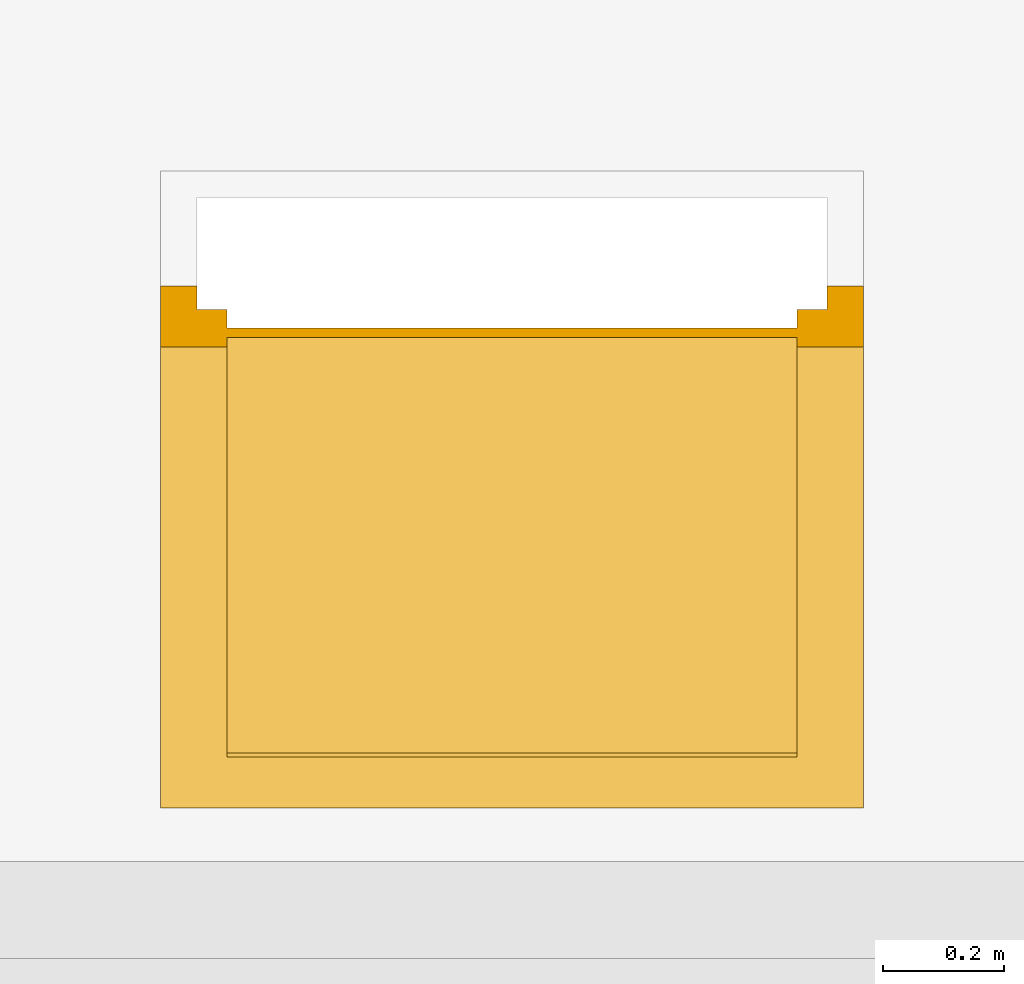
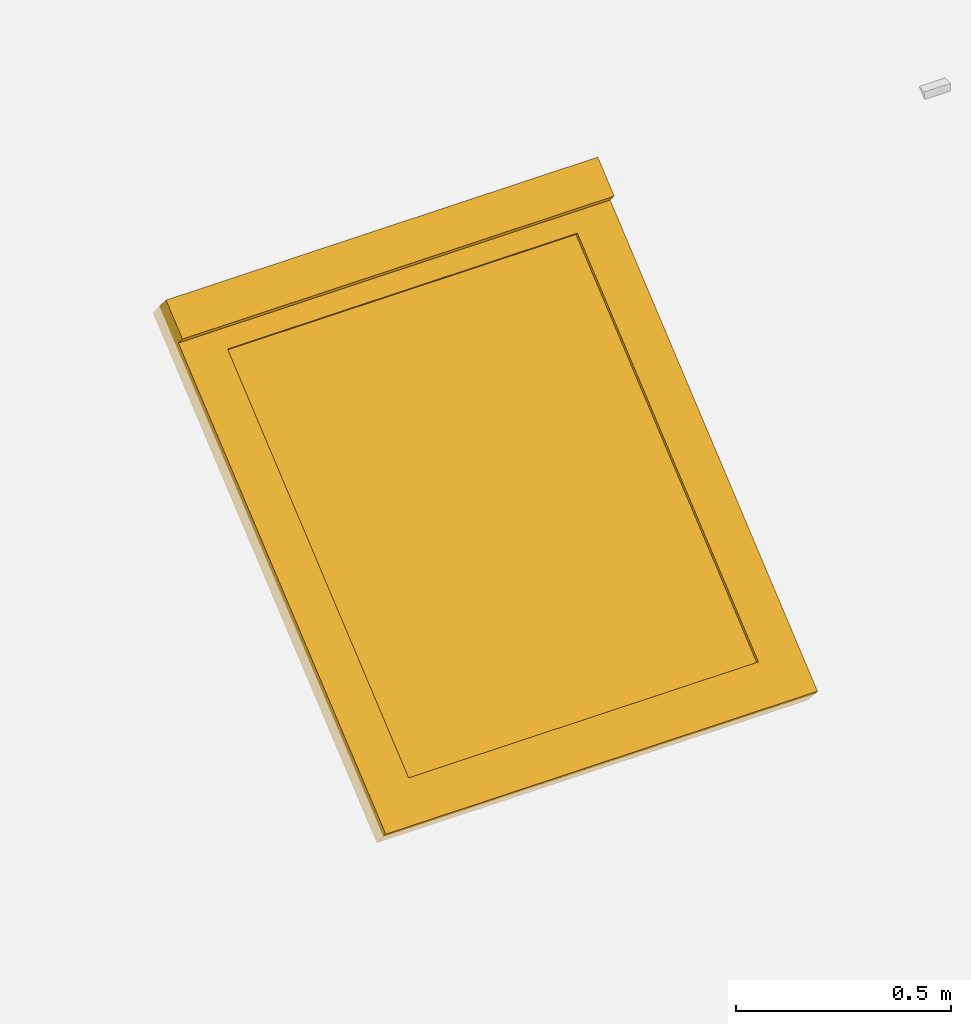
# One storey, part 4 of 5: 1 window.
"""IFC2X3 building model written with IfcOpenShell, lengths in centimetres."""

from ifc_helpers import new_model, entity, si_unit, converted_unit, derived_unit, direction, frame, origin, place, context, subcontext, project, spatial, faceted_brep, source, transform, mapped, material, material_list, type_object, type_shapes, element, save


model = new_model("IFC2X3")

# Units and contexts
model_context = context("Model", 3, precision=0.001, world=origin(), true_north=direction((6.12303176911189e-17, 1.0)))
body_context = subcontext(model_context, "Body", "Model", "MODEL_VIEW")
ifc_project = project(units=[si_unit("LENGTHUNIT", "METRE", prefix="CENTI"), si_unit("AREAUNIT", "SQUARE_METRE"), si_unit("VOLUMEUNIT", "CUBIC_METRE"), converted_unit("PLANEANGLEUNIT", "DEGREE", entity("IfcRatioMeasure", 0.0174532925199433), si_unit("PLANEANGLEUNIT", "RADIAN"), dimensions=[0, 0, 0, 0, 0, 0, 0]), si_unit("MASSUNIT", "GRAM", prefix="KILO"), derived_unit("MASSDENSITYUNIT", [(si_unit("MASSUNIT", "GRAM", prefix="KILO"), 1), (si_unit("LENGTHUNIT", "METRE"), -3)]), derived_unit("MOMENTOFINERTIAUNIT", [(si_unit("LENGTHUNIT", "METRE"), 4)]), si_unit("TIMEUNIT", "SECOND"), si_unit("FREQUENCYUNIT", "HERTZ"), si_unit("THERMODYNAMICTEMPERATUREUNIT", "DEGREE_CELSIUS"), derived_unit("THERMALTRANSMITTANCEUNIT", [(si_unit("MASSUNIT", "GRAM", prefix="KILO"), 1), (si_unit("THERMODYNAMICTEMPERATUREUNIT", "KELVIN"), -1), (si_unit("TIMEUNIT", "SECOND"), -3)]), derived_unit("VOLUMETRICFLOWRATEUNIT", [(si_unit("LENGTHUNIT", "METRE"), 3), (si_unit("TIMEUNIT", "SECOND"), -1)]), si_unit("ELECTRICCURRENTUNIT", "AMPERE"), si_unit("ELECTRICVOLTAGEUNIT", "VOLT"), si_unit("POWERUNIT", "WATT"), si_unit("FORCEUNIT", "NEWTON", prefix="KILO"), si_unit("ILLUMINANCEUNIT", "LUX"), si_unit("LUMINOUSFLUXUNIT", "LUMEN"), si_unit("LUMINOUSINTENSITYUNIT", "CANDELA"), derived_unit("USERDEFINED", [(si_unit("MASSUNIT", "GRAM", prefix="KILO"), -1), (si_unit("LENGTHUNIT", "METRE"), -2), (si_unit("TIMEUNIT", "SECOND"), 3), (si_unit("LUMINOUSFLUXUNIT", "LUMEN"), 1)]), derived_unit("LINEARVELOCITYUNIT", [(si_unit("LENGTHUNIT", "METRE"), 1), (si_unit("TIMEUNIT", "SECOND"), -1)]), si_unit("PRESSUREUNIT", "PASCAL"), derived_unit("USERDEFINED", [(si_unit("LENGTHUNIT", "METRE"), -2), (si_unit("MASSUNIT", "GRAM", prefix="KILO"), 1), (si_unit("TIMEUNIT", "SECOND"), -2)]), derived_unit("LINEARFORCEUNIT", [(si_unit("MASSUNIT", "GRAM", prefix="KILO"), 1), (si_unit("LENGTHUNIT", "METRE"), 1), (si_unit("TIMEUNIT", "SECOND"), -2), (si_unit("LENGTHUNIT", "METRE"), -1)]), derived_unit("PLANARFORCEUNIT", [(si_unit("MASSUNIT", "GRAM", prefix="KILO"), 1), (si_unit("LENGTHUNIT", "METRE"), 1), (si_unit("TIMEUNIT", "SECOND"), -2), (si_unit("LENGTHUNIT", "METRE"), -2)])], contexts=[model_context])

# Site, building, storey
site_placement = place(None, origin())
site = spatial("IfcSite", under=ifc_project, at=site_placement, Name="Surface", CompositionType="ELEMENT")
building_placement = place(site_placement, origin())
building = spatial("IfcBuilding", under=site, at=building_placement, CompositionType="ELEMENT")
storey_placement = place(building_placement, frame((0.0, 0.0, 365.0)))
storey = spatial("IfcBuildingStorey", under=building, at=storey_placement, Name="3.65_Sablière", CompositionType="ELEMENT", Elevation=365.0)

# Window
ifc_material_1 = material(Name="<Unnamed>")
ifc_material_2 = material(Name="Ardoise")
ifc_material_3 = material(Name="Fenêtre - Vitrage")
ifc_material_list_1 = material_list([ifc_material_1, ifc_material_2, ifc_material_3])
ifc_material_list_2 = material_list([ifc_material_2, ifc_material_1])
window_style = type_object("IfcWindowStyle", Name="Fenêtre de toit:114/118", ConstructionType="NOTDEFINED", OperationType="NOTDEFINED", ParameterTakesPrecedence=False, Sizeable=False, material=ifc_material_list_2)
shared_shape = source(origin(), body_context, "Body", "Brep", [
    faceted_brep([(-45.5669872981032, -58.25, 407.5), (-45.5170370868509, -58.1294095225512, 407.5), (-45.4999999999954, -58.0, 407.5), (-45.4999999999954, -57.0, 407.5), (-45.5170370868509, -56.8705904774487, 407.5), (-45.5669872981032, -56.75, 407.5), (-45.6464466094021, -56.6464466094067, 407.5), (-45.7499999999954, -56.5669872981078, 407.5), (-45.8705904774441, -56.5170370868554, 407.5), (-46.0, -56.5, 407.5), (-46.1294095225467, -56.5170370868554, 407.5), (-46.2499999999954, -56.5669872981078, 407.5), (-46.3535533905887, -56.6464466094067, 407.5), (-46.4330127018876, -56.75, 407.5), (-46.4829629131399, -56.8705904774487, 407.5), (-46.4999999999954, -57.0, 407.5), (-46.4999999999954, -58.0, 407.5), (-46.4829629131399, -58.1294095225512, 407.5), (-46.4330127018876, -58.25, 407.5), (-46.3535533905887, -58.3535533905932, 407.5), (-46.2499999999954, -58.4330127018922, 407.5), (-46.1294095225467, -58.4829629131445, 407.5), (-46.0, -58.5, 407.5), (-45.8705904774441, -58.4829629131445, 407.5), (-45.7499999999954, -58.4330127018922, 407.5), (-45.6464466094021, -58.3535533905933, 407.5), (-14.9003206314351, -58.25, 407.5), (-14.8503704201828, -58.1294095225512, 407.5), (-14.8333333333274, -58.0, 407.5), (-14.8333333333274, -57.0, 407.5), (-14.8503704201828, -56.8705904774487, 407.5), (-14.9003206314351, -56.75, 407.5), (-14.9797799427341, -56.6464466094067, 407.5), (-15.0833333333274, -56.5669872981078, 407.5), (-15.2039238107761, -56.5170370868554, 407.5), (-15.3333333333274, -56.5, 407.5), (-15.4627428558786, -56.5170370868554, 407.5), (-15.5833333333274, -56.5669872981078, 407.5), (-15.6868867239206, -56.6464466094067, 407.5), (-15.7663460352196, -56.75, 407.5), (-15.8162962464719, -56.8705904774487, 407.5), (-15.8333333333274, -57.0, 407.5), (-15.8333333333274, -58.0, 407.5), (-15.8162962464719, -58.1294095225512, 407.5), (-15.7663460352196, -58.25, 407.5), (-15.6868867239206, -58.3535533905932, 407.5), (-15.5833333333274, -58.4330127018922, 407.5), (-15.4627428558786, -58.4829629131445, 407.5), (-15.3333333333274, -58.5, 407.5), (-15.2039238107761, -58.4829629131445, 407.5), (-15.0833333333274, -58.4330127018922, 407.5), (-14.9797799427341, -58.3535533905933, 407.5), (15.5833333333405, -58.4330127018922, 407.5), (15.6868867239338, -58.3535533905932, 407.5), (15.7663460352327, -58.25, 407.5), (15.8162962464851, -58.1294095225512, 407.5), (15.8333333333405, -58.0, 407.5), (15.8333333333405, -57.0, 407.5), (15.8162962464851, -56.8705904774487, 407.5), (15.7663460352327, -56.75, 407.5), (15.6868867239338, -56.6464466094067, 407.5), (15.5833333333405, -56.5669872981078, 407.5), (15.4627428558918, -56.5170370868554, 407.5), (15.3333333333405, -56.5, 407.5), (15.2039238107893, -56.5170370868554, 407.5), (15.0833333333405, -56.5669872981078, 407.5), (14.9797799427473, -56.6464466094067, 407.5), (14.9003206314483, -56.75, 407.5), (14.850370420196, -56.8705904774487, 407.5), (14.8333333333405, -57.0, 407.5), (14.8333333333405, -58.0, 407.5), (14.850370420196, -58.1294095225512, 407.5), (14.9003206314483, -58.25, 407.5), (14.9797799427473, -58.3535533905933, 407.5), (15.0833333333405, -58.4330127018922, 407.5), (15.2039238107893, -58.4829629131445, 407.5), (15.3333333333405, -58.5, 407.5), (15.4627428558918, -58.4829629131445, 407.5), (46.1294095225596, -58.4829629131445, 407.5), (46.2500000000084, -58.4330127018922, 407.5), (46.3535533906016, -58.3535533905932, 407.5), (46.4330127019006, -58.25, 407.5), (46.4829629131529, -58.1294095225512, 407.5), (46.5000000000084, -58.0, 407.5), (46.5000000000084, -57.0, 407.5), (46.4829629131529, -56.8705904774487, 407.5), (46.4330127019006, -56.75, 407.5), (46.3535533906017, -56.6464466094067, 407.5), (46.2500000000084, -56.5669872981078, 407.5), (46.1294095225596, -56.5170370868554, 407.5), (46.0, -56.5, 407.5), (45.8705904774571, -56.5170370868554, 407.5), (45.7500000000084, -56.5669872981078, 407.5), (45.6464466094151, -56.6464466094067, 407.5), (45.5669872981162, -56.75, 407.5), (45.5170370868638, -56.8705904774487, 407.5), (45.5000000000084, -57.0, 407.5), (45.5000000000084, -58.0, 407.5), (45.5170370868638, -58.1294095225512, 407.5), (45.5669872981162, -58.25, 407.5), (45.6464466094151, -58.3535533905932, 407.5), (45.7500000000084, -58.4330127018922, 407.5), (45.8705904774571, -58.4829629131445, 407.5), (46.0, -58.5, 407.5), (-50.4999999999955, -55.8670370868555, 403.37059047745), (-50.4999999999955, -55.9169872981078, 403.250000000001), (-50.4999999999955, -55.9964466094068, 403.146446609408), (-50.4999999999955, -56.1000000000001, 403.066987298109), (-50.4999999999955, -56.2205904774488, 403.017037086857), (-50.4999999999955, -56.3500000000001, 403.0), (-50.4999999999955, -58.6500000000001, 403.0), (-50.4999999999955, -58.7794095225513, 403.017037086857), (-50.4999999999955, -58.9, 403.066987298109), (-50.4999999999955, -59.0035533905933, 403.146446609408), (-50.4999999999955, -59.0830127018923, 403.250000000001), (-50.4999999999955, -59.1329629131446, 403.37059047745), (-50.4999999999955, -59.1500000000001, 403.500000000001), (-50.4999999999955, -59.1329629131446, 403.629409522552), (-50.4999999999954, -59.0830127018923, 403.750000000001), (-50.4999999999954, -59.0035533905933, 403.853553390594), (-50.4999999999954, -58.9, 403.933012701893), (-50.4999999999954, -58.7794095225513, 403.982962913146), (-50.4999999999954, -58.6500000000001, 404.0), (-50.4999999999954, -56.3500000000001, 404.0), (-50.4999999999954, -56.2205904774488, 403.982962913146), (-50.4999999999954, -56.1000000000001, 403.933012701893), (-50.4999999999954, -55.9964466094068, 403.853553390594), (-50.4999999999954, -55.9169872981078, 403.750000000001), (-50.4999999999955, -55.8670370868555, 403.629409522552), (-50.4999999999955, -55.8500000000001, 403.500000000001), (50.5000000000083, -59.0830127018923, 403.25), (50.5000000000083, -59.0035533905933, 403.146446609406), (50.5000000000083, -58.9, 403.066987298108), (50.5000000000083, -58.7794095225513, 403.017037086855), (50.5000000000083, -58.6500000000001, 403.0), (50.5000000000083, -56.35, 403.0), (50.5000000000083, -56.2205904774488, 403.017037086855), (50.5000000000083, -56.1000000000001, 403.066987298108), (50.5000000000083, -55.9964466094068, 403.146446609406), (50.5000000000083, -55.9169872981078, 403.25), (50.5000000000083, -55.8670370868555, 403.370590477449), (50.5000000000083, -55.8500000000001, 403.5), (50.5000000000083, -55.8670370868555, 403.629409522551), (50.5000000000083, -55.9169872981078, 403.75), (50.5000000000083, -55.9964466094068, 403.853553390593), (50.5000000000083, -56.1000000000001, 403.933012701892), (50.5000000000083, -56.2205904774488, 403.982962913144), (50.5000000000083, -56.3500000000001, 404.0), (50.5000000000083, -58.6500000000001, 404.0), (50.5000000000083, -58.7794095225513, 403.982962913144), (50.5000000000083, -58.9, 403.933012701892), (50.5000000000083, -59.0035533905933, 403.853553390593), (50.5000000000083, -59.0830127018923, 403.75), (50.5000000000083, -59.1329629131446, 403.629409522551), (50.5000000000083, -59.1500000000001, 403.5), (50.5000000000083, -59.1329629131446, 403.370590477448), (-42.692311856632, -56.35, 403.0), (-36.9615348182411, -56.35, 403.0), (-31.2307556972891, -56.35, 403.0), (-21.5961325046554, -56.35, 403.0), (-11.9615093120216, -56.35, 403.0), (-4.15382116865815, -56.35, 403.0), (3.65386697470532, -56.35, 403.0), (11.4615551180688, -56.3500000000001, 403.0), (19.2692453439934, -56.35, 403.0), (27.0769355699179, -56.35, 403.0), (34.8846237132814, -56.35, 403.0), (42.6923118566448, -56.35, 403.0), (42.6923115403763, -58.6500000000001, 403.0), (34.8846227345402, -58.6500000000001, 403.0), (27.0769339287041, -58.6500000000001, 403.0), (19.2692454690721, -58.6500000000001, 403.0), (9.63462273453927, -58.6500000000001, 403.0), (0.0, -58.6500000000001, 403.0), (-6.31249982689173, -58.6500000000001, 403.0), (-12.6249999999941, -58.6500000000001, 403.0), (-18.9375001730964, -58.6500000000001, 403.0), (-25.2499999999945, -58.6500000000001, 403.0), (-31.5624998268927, -58.6500000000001, 403.0), (-37.874999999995, -58.6500000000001, 403.0), (-42.6923115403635, -58.6500000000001, 403.0), (9.62868385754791, -59.149553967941, 403.521114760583), (15.3654009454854, -59.1500000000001, 403.499999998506), (-45.3918278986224, -59.1457224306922, 403.565263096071), (44.6442334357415, -59.1499110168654, 403.490567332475), (-42.6923126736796, -58.6500000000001, 404.0), (42.6923109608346, -58.65, 404.0), (-28.4062501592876, -59.1498443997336, 403.487526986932), (-21.5961320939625, -58.6500000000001, 404.0), (-31.2307553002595, -58.6500000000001, 404.0), (-40.2836557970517, -59.1500000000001, 403.500000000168), (-3.15625032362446, -59.1468251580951, 403.443743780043), (-9.56044146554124, -59.1494802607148, 403.477208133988), (3.65386919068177, -58.6500000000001, 404.0), (-4.15381984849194, -58.6500000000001, 404.0), (23.1730894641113, -59.1500000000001, 403.500000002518), (30.9807780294, -59.1500000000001, 403.499999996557), (-34.3471232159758, -59.1477877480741, 403.453017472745), (-15.7812502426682, -59.14915341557, 403.5290838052), (-22.4412783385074, -59.1479666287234, 403.454952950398), (34.8846219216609, -58.6500000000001, 404.0), (38.7884665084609, -59.1500000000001, 403.499999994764), (-36.9615339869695, -58.6500000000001, 404.0), (27.0769328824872, -58.6500000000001, 404.0), (-11.9615088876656, -58.6500000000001, 404.0), (19.2692455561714, -58.6500000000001, 404.0), (2.81361528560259, -59.1479463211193, 403.454729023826), (11.4615582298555, -58.6500000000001, 404.0), (-46.1294095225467, -58.4829629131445, 404.0), (-46.2499999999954, -58.4330127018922, 404.0), (-46.0, -58.5, 404.0), (-46.3535533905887, -58.3535533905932, 404.0), (-15.3333333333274, -58.5, 404.0), (-46.4330127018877, -58.25, 404.0), (-46.48296291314, -58.1294095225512, 404.0), (-46.4999999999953, -58.0, 404.0), (-46.4999999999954, -57.0, 404.0), (15.3333333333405, -58.5, 404.0), (46.0, -58.5, 404.0), (46.1294095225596, -58.4829629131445, 404.0), (46.2500000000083, -58.4330127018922, 404.0), (46.3535533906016, -58.3535533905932, 404.0), (46.4330127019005, -58.25, 404.0), (46.4829629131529, -58.1294095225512, 404.0), (46.5000000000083, -58.0, 404.0), (46.5000000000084, -57.0, 404.0), (46.4829629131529, -56.8705904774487, 404.0), (46.4330127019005, -56.75, 404.0), (46.3535533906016, -56.6464466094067, 404.0), (46.2500000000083, -56.5669872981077, 404.0), (46.1294095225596, -56.5170370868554, 404.0), (46.0, -56.5, 404.0), (15.3333333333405, -56.5, 404.0), (42.6923117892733, -56.3500000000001, 404.0), (34.8846235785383, -56.3500000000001, 404.0), (27.0769353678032, -56.3500000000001, 404.0), (19.2692458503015, -56.3500000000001, 404.0), (9.63462325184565, -56.3500000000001, 404.0), (-6.53376920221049e-07, -56.3500000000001, 404.0), (-6.31250073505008, -56.3500000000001, 404.0), (-12.6250008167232, -56.3500000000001, 404.0), (-18.9375008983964, -56.3500000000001, 404.0), (-25.2500009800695, -56.3500000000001, 404.0), (-31.5625010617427, -56.3500000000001, 404.0), (-37.8750011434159, -56.3500000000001, 404.0), (-42.6923117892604, -56.3500000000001, 404.0), (-46.48296291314, -56.8705904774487, 404.0), (-46.4330127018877, -56.75, 404.0), (-46.3535533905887, -56.6464466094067, 404.0), (-46.2499999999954, -56.5669872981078, 404.0), (-46.1294095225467, -56.5170370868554, 404.0), (-46.0, -56.5, 404.0), (-15.3333333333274, -56.5, 404.0), (15.4627428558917, -56.5170370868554, 404.0), (15.2039238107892, -56.5170370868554, 404.0), (45.8705904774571, -56.5170370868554, 404.0), (15.5833333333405, -56.5669872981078, 404.0), (45.7500000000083, -56.5669872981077, 404.0), (15.6868867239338, -56.6464466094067, 404.0), (45.6464466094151, -56.6464466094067, 404.0), (15.7663460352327, -56.75, 404.0), (45.5669872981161, -56.75, 404.0), (15.816296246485, -56.8705904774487, 404.0), (45.5170370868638, -56.8705904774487, 404.0), (15.8333333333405, -57.0, 404.0), (45.5000000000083, -57.0, 404.0), (45.5000000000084, -58.0, 404.0), (15.8333333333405, -58.0, 404.0), (45.5170370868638, -58.1294095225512, 404.0), (15.816296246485, -58.1294095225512, 404.0), (45.5669872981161, -58.25, 404.0), (15.7663460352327, -58.25, 404.0), (45.6464466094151, -58.3535533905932, 404.0), (15.6868867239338, -58.3535533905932, 404.0), (45.7500000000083, -58.4330127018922, 404.0), (15.5833333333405, -58.4330127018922, 404.0), (45.8705904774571, -58.4829629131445, 404.0), (15.4627428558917, -58.4829629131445, 404.0), (15.2039238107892, -58.4829629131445, 404.0), (-15.2039238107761, -58.4829629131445, 404.0), (-15.0833333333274, -58.4330127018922, 404.0), (15.0833333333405, -58.4330127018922, 404.0), (-14.9797799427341, -58.3535533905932, 404.0), (14.9797799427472, -58.3535533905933, 404.0), (-14.9003206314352, -58.25, 404.0), (14.9003206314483, -58.25, 404.0), (-14.8503704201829, -58.1294095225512, 404.0), (14.8503704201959, -58.1294095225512, 404.0), (-14.8333333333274, -58.0, 404.0), (14.8333333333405, -58.0, 404.0), (14.8333333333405, -57.0, 404.0), (-14.8333333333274, -57.0, 404.0), (14.8503704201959, -56.8705904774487, 404.0), (-14.8503704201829, -56.8705904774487, 404.0), (14.9003206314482, -56.75, 404.0), (-14.9003206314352, -56.75, 404.0), (14.9797799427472, -56.6464466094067, 404.0), (-14.9797799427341, -56.6464466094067, 404.0), (15.0833333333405, -56.5669872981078, 404.0), (-15.0833333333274, -56.5669872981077, 404.0), (-15.2039238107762, -56.5170370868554, 404.0), (-15.4627428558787, -58.4829629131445, 404.0), (-45.8705904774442, -58.4829629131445, 404.0), (-15.5833333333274, -58.4330127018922, 404.0), (-45.7499999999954, -58.4330127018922, 404.0), (-15.6868867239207, -58.3535533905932, 404.0), (-45.6464466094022, -58.3535533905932, 404.0), (-15.7663460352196, -58.25, 404.0), (-45.5669872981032, -58.25, 404.0), (-15.8162962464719, -58.1294095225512, 404.0), (-45.5170370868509, -58.1294095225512, 404.0), (-15.8333333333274, -58.0, 404.0), (-45.4999999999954, -58.0, 404.0), (-15.8333333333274, -57.0, 404.0), (-45.4999999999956, -57.0, 404.0), (-45.5170370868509, -56.8705904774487, 404.0), (-15.8162962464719, -56.8705904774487, 404.0), (-45.5669872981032, -56.75, 404.0), (-15.7663460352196, -56.75, 404.0), (-45.6464466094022, -56.6464466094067, 404.0), (-15.6868867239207, -56.6464466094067, 404.0), (-45.7499999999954, -56.5669872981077, 404.0), (-15.5833333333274, -56.5669872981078, 404.0), (-45.8705904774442, -56.5170370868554, 404.0), (-15.4627428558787, -56.5170370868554, 404.0), (9.62868382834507, -55.8504460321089, 403.478885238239), (15.3654009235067, -55.8500000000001, 403.50000000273), (-28.4062501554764, -55.8501556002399, 403.512473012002), (-45.3918278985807, -55.8542775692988, 403.434736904), (44.6442333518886, -55.8500889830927, 403.509432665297), (-40.2836557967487, -55.8500000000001, 403.49999999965), (-3.15625031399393, -55.8531748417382, 403.556256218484), (-9.56044144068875, -55.8505197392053, 403.52279186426), (-34.3471232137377, -55.8522122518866, 403.546982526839), (38.7884665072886, -55.8500000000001, 403.500000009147), (-22.4412783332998, -55.8520333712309, 403.545047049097), (30.9807780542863, -55.8500000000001, 403.500000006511), (-15.7812502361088, -55.8508465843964, 403.470916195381), (23.1730894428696, -55.8500000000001, 403.499999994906), (2.81361529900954, -55.8520536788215, 403.545270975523)], [[[0, 1, 2, 3, 4, 5, 6, 7, 8, 9, 10, 11, 12, 13, 14, 15, 16, 17, 18, 19, 20, 21, 22, 23, 24, 25]], [[26, 27, 28, 29, 30, 31, 32, 33, 34, 35, 36, 37, 38, 39, 40, 41, 42, 43, 44, 45, 46, 47, 48, 49, 50, 51]], [[52, 53, 54, 55, 56, 57, 58, 59, 60, 61, 62, 63, 64, 65, 66, 67, 68, 69, 70, 71, 72, 73, 74, 75, 76, 77]], [[78, 79, 80, 81, 82, 83, 84, 85, 86, 87, 88, 89, 90, 91, 92, 93, 94, 95, 96, 97, 98, 99, 100, 101, 102, 103]], [[104, 105, 106, 107, 108, 109, 110, 111, 112, 113, 114, 115, 116, 117, 118, 119, 120, 121, 122, 123, 124, 125, 126, 127, 128, 129]], [[130, 131, 132, 133, 134, 135, 136, 137, 138, 139, 140, 141, 142, 143, 144, 145, 146, 147, 148, 149, 150, 151, 152, 153, 154, 155]], [[110, 109, 156, 157, 158, 159, 160, 161, 162, 163, 164, 165, 166, 167, 135, 134, 168, 169, 170, 171, 172, 173, 174, 175, 176, 177, 178, 179, 180]], [[181, 172, 182]], [[115, 183, 116]], [[183, 119, 118]], [[151, 150, 184]], [[155, 184, 130]], [[185, 122, 121]], [[149, 148, 186]], [[186, 150, 149]], [[187, 188, 189]], [[150, 186, 184]], [[185, 183, 190]], [[174, 191, 192]], [[184, 131, 130]], [[121, 183, 185]], [[193, 194, 191]], [[180, 179, 190]], [[182, 171, 195]], [[170, 196, 195]], [[183, 120, 119]], [[179, 178, 197]], [[184, 155, 154]], [[114, 183, 115]], [[183, 121, 120]], [[198, 188, 199]], [[186, 200, 196, 201]], [[197, 178, 187]], [[202, 190, 197]], [[168, 184, 201]], [[203, 195, 196]], [[202, 185, 190]], [[151, 184, 152]], [[188, 187, 199]], [[170, 169, 196]], [[117, 116, 183]], [[183, 118, 117]], [[168, 134, 133]], [[111, 110, 180]], [[192, 204, 198]], [[180, 183, 112]], [[111, 180, 112]], [[195, 203, 205]], [[184, 153, 152]], [[132, 168, 133]], [[183, 113, 112]], [[131, 184, 132]], [[183, 180, 190]], [[113, 183, 114]], [[173, 206, 191]], [[202, 197, 189]], [[187, 177, 199]], [[201, 184, 186]], [[175, 192, 198]], [[187, 178, 177]], [[175, 198, 176]], [[199, 177, 176]], [[188, 198, 204]], [[199, 176, 198]], [[174, 173, 191]], [[194, 204, 192]], [[192, 175, 174]], [[197, 187, 189]], [[192, 191, 194]], [[191, 206, 193]], [[173, 172, 206]], [[182, 205, 207]], [[206, 181, 193]], [[179, 197, 190]], [[168, 201, 169]], [[181, 182, 207]], [[172, 171, 182]], [[182, 195, 205]], [[170, 195, 171]], [[201, 196, 169]], [[203, 196, 200]], [[132, 184, 168]], [[184, 154, 153]], [[193, 181, 207]], [[206, 172, 181]], [[122, 208, 209]], [[208, 122, 210]], [[122, 209, 211]], [[122, 212, 210]], [[213, 122, 211]], [[213, 214, 122]], [[214, 215, 122]], [[122, 215, 216]], [[122, 217, 212]], [[216, 123, 122]], [[217, 122, 185]], [[217, 185, 202]], [[217, 202, 189]], [[217, 189, 188]], [[217, 188, 204]], [[217, 204, 194]], [[217, 194, 193]], [[217, 193, 207]], [[217, 207, 205]], [[217, 205, 203]], [[217, 203, 200]], [[217, 200, 186]], [[217, 186, 148]], [[218, 217, 148]], [[148, 219, 218]], [[219, 148, 220]], [[221, 220, 148]], [[148, 222, 221]], [[222, 148, 223]], [[224, 223, 148]], [[148, 225, 224]], [[225, 148, 147]], [[226, 225, 147]], [[226, 147, 227]], [[228, 227, 147]], [[229, 228, 147]], [[147, 230, 229]], [[230, 147, 231]], [[231, 147, 232]], [[232, 147, 233]], [[232, 233, 234]], [[232, 234, 235]], [[232, 235, 236]], [[232, 236, 237]], [[232, 237, 238]], [[232, 238, 239]], [[232, 239, 240]], [[232, 240, 241]], [[232, 241, 242]], [[232, 242, 243]], [[232, 243, 244]], [[232, 244, 245]], [[232, 245, 123]], [[216, 246, 123]], [[246, 247, 123]], [[248, 123, 247]], [[123, 248, 249]], [[123, 249, 250]], [[250, 251, 123]], [[123, 251, 252]], [[123, 252, 232]], [[232, 253, 231]], [[254, 232, 252]], [[255, 231, 253]], [[256, 255, 253]], [[257, 255, 256]], [[256, 258, 257]], [[259, 257, 258]], [[260, 259, 258]], [[261, 259, 260]], [[260, 262, 261]], [[263, 261, 262]], [[262, 264, 263]], [[265, 263, 264]], [[266, 265, 264]], [[264, 267, 266]], [[268, 266, 267]], [[267, 269, 268]], [[270, 268, 269]], [[271, 270, 269]], [[270, 271, 272]], [[273, 272, 271]], [[274, 272, 273]], [[273, 275, 274]], [[276, 274, 275]], [[275, 277, 276]], [[217, 218, 277]], [[218, 276, 277]], [[217, 278, 212]], [[279, 212, 278]], [[279, 278, 280]], [[278, 281, 280]], [[282, 280, 281]], [[281, 283, 282]], [[282, 283, 284]], [[285, 284, 283]], [[284, 285, 286]], [[285, 287, 286]], [[288, 286, 287]], [[287, 289, 288]], [[289, 290, 288]], [[288, 290, 291]], [[290, 292, 291]], [[293, 291, 292]], [[292, 294, 293]], [[293, 294, 295]], [[294, 296, 295]], [[295, 296, 297]], [[296, 298, 297]], [[299, 297, 298]], [[298, 254, 299]], [[299, 254, 300]], [[301, 210, 212]], [[302, 210, 301]], [[302, 301, 303]], [[304, 302, 303]], [[305, 304, 303]], [[304, 305, 306]], [[307, 306, 305]], [[306, 307, 308]], [[307, 309, 308]], [[310, 308, 309]], [[310, 309, 311]], [[310, 311, 312]], [[313, 312, 311]], [[314, 312, 313]], [[314, 313, 315]], [[313, 316, 315]], [[317, 315, 316]], [[316, 318, 317]], [[319, 317, 318]], [[318, 320, 319]], [[319, 320, 321]], [[322, 321, 320]], [[323, 321, 322]], [[324, 323, 322]], [[323, 324, 251]], [[252, 251, 324]], [[252, 300, 254]], [[325, 237, 326]], [[327, 159, 158]], [[128, 328, 129]], [[138, 137, 329]], [[156, 109, 108]], [[136, 135, 167]], [[233, 147, 146]], [[124, 123, 245]], [[137, 167, 329]], [[328, 106, 105]], [[136, 167, 137]], [[156, 328, 330]], [[239, 331, 332]], [[329, 144, 143]], [[108, 328, 156]], [[328, 107, 106]], [[245, 244, 330]], [[144, 329, 145]], [[244, 243, 333]], [[329, 142, 141]], [[127, 328, 128]], [[328, 108, 107]], [[162, 161, 331]], [[167, 166, 334]], [[333, 243, 327]], [[157, 330, 333]], [[233, 329, 334]], [[138, 329, 139]], [[125, 124, 245]], [[159, 327, 335]], [[142, 329, 143]], [[104, 129, 328]], [[328, 105, 104]], [[235, 234, 336]], [[332, 160, 337]], [[328, 125, 245]], [[164, 338, 165]], [[328, 126, 125]], [[238, 339, 331]], [[336, 165, 338]], [[145, 233, 146]], [[328, 245, 330]], [[127, 126, 328]], [[329, 140, 139]], [[157, 333, 158]], [[337, 159, 335]], [[327, 242, 335]], [[167, 334, 329]], [[240, 332, 337]], [[327, 243, 242]], [[157, 156, 330]], [[326, 338, 164]], [[240, 337, 241]], [[335, 242, 241]], [[159, 337, 160]], [[335, 241, 337]], [[239, 238, 331]], [[161, 160, 332]], [[332, 240, 239]], [[333, 327, 158]], [[332, 331, 161]], [[331, 339, 162]], [[238, 237, 339]], [[326, 236, 338]], [[326, 164, 163]], [[339, 325, 162]], [[244, 333, 330]], [[235, 336, 338]], [[336, 334, 166]], [[233, 334, 234]], [[325, 326, 163]], [[237, 236, 326]], [[235, 338, 236]], [[334, 336, 234]], [[165, 336, 166]], [[145, 329, 233]], [[329, 141, 140]], [[162, 325, 163]], [[339, 237, 325]], [[224, 225, 84, 83]], [[82, 223, 224, 83]], [[81, 222, 223, 82]], [[220, 221, 80, 79]], [[81, 80, 221, 222]], [[219, 220, 79, 78]], [[218, 219, 78, 103]], [[102, 276, 218, 103]], [[101, 274, 276, 102]], [[270, 272, 100, 99]], [[101, 100, 272, 274]], [[268, 270, 99, 98]], [[266, 268, 98, 97]], [[265, 266, 97, 96]], [[95, 263, 265, 96]], [[94, 261, 263, 95]], [[257, 259, 93, 92]], [[94, 93, 259, 261]], [[255, 257, 92, 91]], [[231, 255, 91, 90]], [[89, 230, 231, 90]], [[88, 229, 230, 89]], [[227, 228, 87, 86]], [[88, 87, 228, 229]], [[226, 227, 86, 85]], [[225, 226, 85, 84]], [[267, 264, 57, 56]], [[55, 269, 267, 56]], [[54, 271, 269, 55]], [[275, 273, 53, 52]], [[54, 53, 273, 271]], [[277, 275, 52, 77]], [[217, 277, 77, 76]], [[75, 278, 217, 76]], [[74, 281, 278, 75]], [[285, 283, 73, 72]], [[74, 73, 283, 281]], [[287, 285, 72, 71]], [[289, 287, 71, 70]], [[290, 289, 70, 69]], [[68, 292, 290, 69]], [[67, 294, 292, 68]], [[298, 296, 66, 65]], [[67, 66, 296, 294]], [[254, 298, 65, 64]], [[232, 254, 64, 63]], [[62, 253, 232, 63]], [[61, 256, 253, 62]], [[260, 258, 60, 59]], [[61, 60, 258, 256]], [[262, 260, 59, 58]], [[264, 262, 58, 57]], [[288, 291, 29, 28]], [[27, 286, 288, 28]], [[26, 284, 286, 27]], [[280, 282, 51, 50]], [[26, 51, 282, 284]], [[279, 280, 50, 49]], [[212, 279, 49, 48]], [[47, 301, 212, 48]], [[46, 303, 301, 47]], [[307, 305, 45, 44]], [[46, 45, 305, 303]], [[309, 307, 44, 43]], [[311, 309, 43, 42]], [[313, 311, 42, 41]], [[40, 316, 313, 41]], [[39, 318, 316, 40]], [[322, 320, 38, 37]], [[39, 38, 320, 318]], [[324, 322, 37, 36]], [[252, 324, 36, 35]], [[34, 300, 252, 35]], [[33, 299, 300, 34]], [[295, 297, 32, 31]], [[33, 32, 297, 299]], [[293, 295, 31, 30]], [[291, 293, 30, 29]], [[312, 314, 3, 2]], [[1, 310, 312, 2]], [[0, 308, 310, 1]], [[304, 306, 25, 24]], [[0, 25, 306, 308]], [[302, 304, 24, 23]], [[210, 302, 23, 22]], [[21, 208, 210, 22]], [[20, 209, 208, 21]], [[213, 211, 19, 18]], [[20, 19, 211, 209]], [[214, 213, 18, 17]], [[215, 214, 17, 16]], [[216, 215, 16, 15]], [[14, 246, 216, 15]], [[13, 247, 246, 14]], [[249, 248, 12, 11]], [[13, 12, 248, 247]], [[250, 249, 11, 10]], [[251, 250, 10, 9]], [[8, 323, 251, 9]], [[7, 321, 323, 8]], [[317, 319, 6, 5]], [[7, 6, 319, 321]], [[315, 317, 5, 4]], [[314, 315, 4, 3]]]),
    faceted_brep([(58.0, 66.0, 411.499999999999), (-58.0, 66.0, 411.5), (-58.0, -60.0, 411.5), (-52.0, -60.0, 411.5), (-52.0, 60.0, 411.5), (52.0, 60.0, 411.499999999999), (52.0, -60.0, 411.499999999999), (58.0, -60.0, 411.499999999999), (58.0, -70.0, 405.0), (-58.0, -70.0, 405.0), (-58.0, 66.0, 405.0), (58.0, 66.0, 405.0), (-52.0, -60.0, 405.0), (52.0, -60.0, 405.0), (52.0, 60.0, 405.0), (-52.0, 60.0, 405.0), (58.0, -60.0, 414.499999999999), (58.0, -70.0, 414.499999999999), (-58.0, -70.0, 414.5), (-58.0, -60.0, 414.5)], [[[0, 1, 2, 3, 4, 5, 6, 7]], [[8, 9, 10, 11], [12, 13, 14, 15]], [[8, 11, 0, 7, 16, 17]], [[1, 0, 11, 10]], [[10, 9, 18, 19, 2, 1]], [[18, 9, 8, 17]], [[4, 3, 12, 15]], [[5, 4, 15, 14]], [[6, 5, 14, 13]], [[13, 12, 3, 2, 19, 16, 7, 6]], [[19, 18, 17, 16]]]),
    faceted_brep([(47.0, -55.0, 410.5), (47.0, 55.0, 410.5), (-47.0, 55.0, 410.5), (-47.0, -55.0, 410.5), (47.0, -55.0, 409.5), (-47.0, -55.0, 409.5), (-47.0, 55.0, 409.5), (47.0, 55.0, 409.5)], [[[0, 1, 2, 3]], [[4, 5, 6, 7]], [[1, 0, 4, 7]], [[2, 1, 7, 6]], [[3, 2, 6, 5]], [[0, 3, 5, 4]]]),
    faceted_brep([(-52.0, -60.0, 411.5), (52.0, -60.0, 411.5), (52.0, 60.0, 411.5), (-52.0, 60.0, 411.5), (-47.0, 55.0, 411.5), (47.0, 55.0, 411.5), (47.0, -55.0, 411.5), (-47.0, -55.0, 411.5), (-52.0, -60.0, 407.5), (-52.0, 60.0, 407.5), (52.0, 60.0, 407.5), (52.0, -60.0, 407.5), (-47.0, 55.0, 407.5), (-47.0, -55.0, 407.5), (47.0, -55.0, 407.5), (47.0, 55.0, 407.5)], [[[0, 1, 2, 3], [4, 5, 6, 7]], [[8, 9, 10, 11], [12, 13, 14, 15]], [[1, 0, 8, 11]], [[2, 1, 11, 10]], [[3, 2, 10, 9]], [[0, 3, 9, 8]], [[5, 4, 12, 15]], [[6, 5, 15, 14]], [[7, 6, 14, 13]], [[4, 7, 13, 12]]]),
])
type_shapes(window_style, [shared_shape])
window_placement = place(storey_placement, frame((-1419.06456194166, 480.906611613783, -216.426971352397), z_axis=(0.0, -0.642787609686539, 0.766044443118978), x_axis=(-1.0, 0.0, 0.0)))
element("IfcWindow", 1, at=window_placement, inside=storey, type_object=window_style, material=ifc_material_list_1, Name="Fenêtre de toit:114/118", ObjectType="Fenêtre de toit:114/118", OverallHeight=14.5, OverallWidth=116.000000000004, context=body_context, shape_type="MappedRepresentation", body=[
    mapped(shared_shape, transform((0.0, 0.0, 0.0), scale=1.0)),
])

save(model, "model.ifc")
